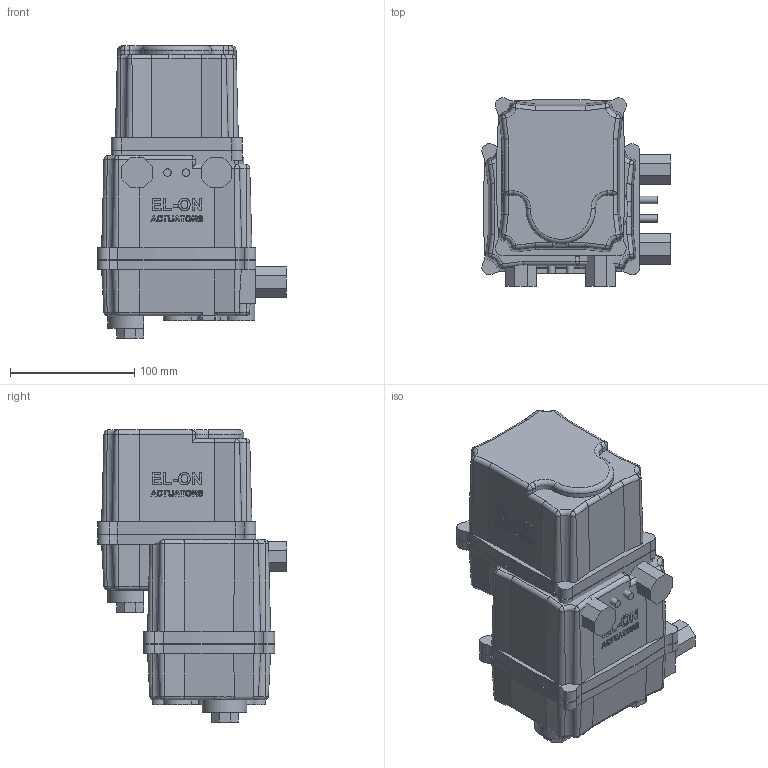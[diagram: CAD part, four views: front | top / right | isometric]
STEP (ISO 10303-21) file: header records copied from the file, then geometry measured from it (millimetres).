
FILE_DESCRIPTION( ( 'Unknown' ), '1' );
FILE_NAME( 'J:/Muud/ROOTSI BPS 3D vidinad/Kuulkraanid/Roostevaba kuulkraanid/Ball valve BPS 2411/Ball valve with electric actuator BPS/STEP formaat/BPS 2411020E ball valve DN20.stp', 'Unknown', ( 'Unknown' ), ( 'Unknown' ), 'PSStep 10.1', 'Unknown', ' ' );
FILE_SCHEMA( ( 'AUTOMOTIVE_DESIGN { 1 0 10303 214 1 1 1 1 }' ) );
Length unit declared in the file: millimetre
Products named in the file (4): Assem1; BPS 2411020 ball valve DN20; BPS 8005058 electric actuator DN40-100
Bounding box: 151.5 x 151.5 x 235.2 mm (x, y, z)
Volume: 3078508.9 mm3; surface area: 270809.6 mm2
Topology: 6 solids, 6 shells, 1116 faces, 2902 edges, 1876 vertices
Faces by surface type: plane 440, cylinder 262, extrusion 190, bspline 116, cone 82, torus 26
Full cylindrical faces by diameter (mm): 4.134 x16, 4.917 x8, 6 x4, 6.647 x8, 20 x2, 21 x2, 24.117 x4, 31 x2, 42 x2
Entity records: 29668 total; most frequent: CARTESIAN_POINT 12837, ORIENTED_EDGE 2666, DIRECTION 2102, EDGE_CURVE 1333, VERTEX_POINT 905, VECTOR 708, AXIS2_PLACEMENT_3D 697, EDGE_LOOP 672
